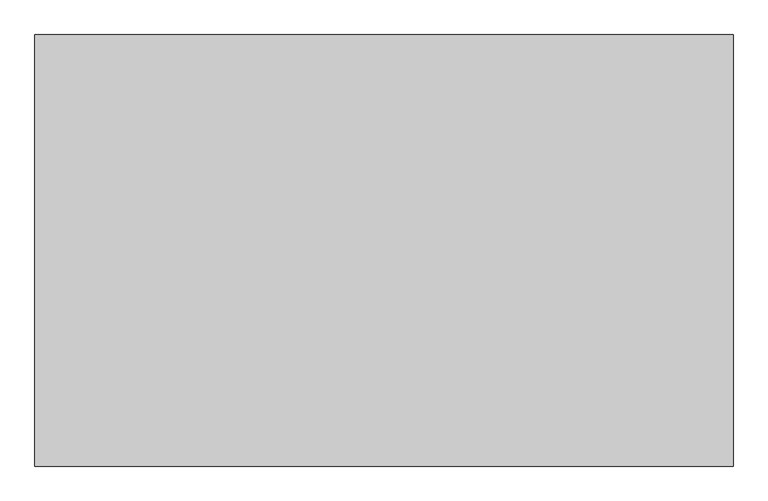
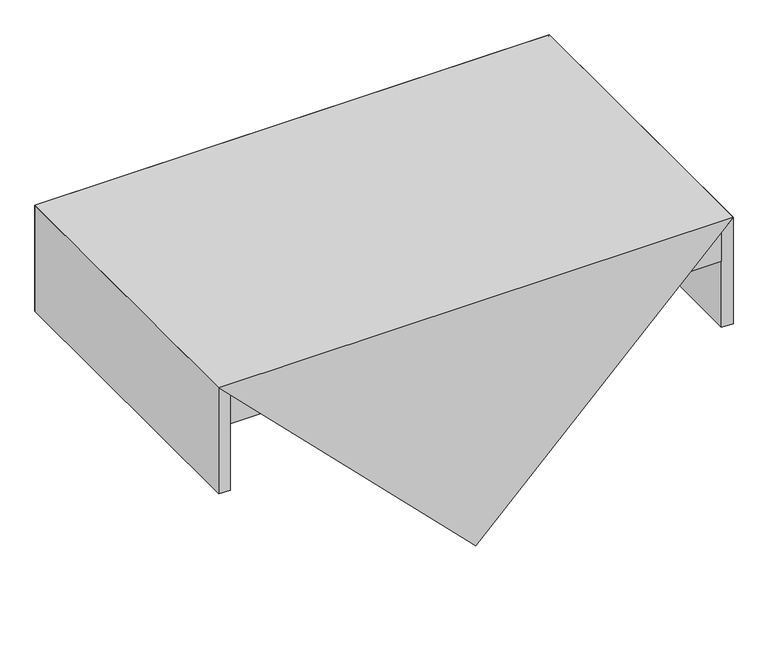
"""IFC4 building model written with IfcOpenShell, lengths in millimetres: proxy geometry, SALUTE^ADMIN_34x55 STRAIGHT TRANS-PARTS SOLID."""

import ifcopenshell
import ifcopenshell.guid

model = None  # the IFC model being written
_history = None  # IfcOwnerHistory: only IFC2X3 demands one
_inside = {}  # id of a spatial element -> (the spatial element, [elements in it])
_under = {}  # id of a project, library or spatial element -> (it, [spatial elements below it])
_declared = {}  # id of a project -> (the project, [libraries it declares])
_typed = {}  # id of a type object -> (the type object, [elements of that type])
_made_of = {}  # id of a material, layer set ... -> (it, [elements and type objects made of it])


def new_model(schema):
    """Start an empty IFC model of exactly this schema.

    Asked for "IFC4X3", IfcOpenShell would pick the latest addendum, in which some entities
    have other attributes; the version numbers below select the first issue.
    IFC2X3 requires an IfcOwnerHistory on every rooted entity: one is made here for all.
    """
    global model, _history
    if schema == "IFC4X3":
        model = ifcopenshell.file(schema_version=(4, 3, 0, 0))
    else:
        model = ifcopenshell.file(schema=schema)
    _inside.clear()
    _under.clear()
    _declared.clear()
    _typed.clear()
    _made_of.clear()
    _history = None
    if model.schema == "IFC2X3":
        org = make("IfcOrganization", Name="unknown")
        user = make(
            "IfcPersonAndOrganization",
            ThePerson=make("IfcPerson", FamilyName="unknown"),
            TheOrganization=org,
        )
        app = make(
            "IfcApplication",
            ApplicationDeveloper=org,
            Version="unknown",
            ApplicationFullName="unknown",
            ApplicationIdentifier="unknown",
        )
        _history = make(
            "IfcOwnerHistory",
            OwningUser=user,
            OwningApplication=app,
            ChangeAction="ADDED",
            CreationDate=0,
        )
    return model


def make(cls, **values):
    """One entity of the class cls with the attributes given. An attribute that is None is left unset."""
    return model.create_entity(
        cls, **{name: value for name, value in values.items() if value is not None}
    )


def rooted(cls, **values):
    """An entity with a GlobalId (a new one), such as an element, a storey or a relation."""
    return make(cls, GlobalId=ifcopenshell.guid.new(), OwnerHistory=_history, **values)


def si_unit(unit_type, name, prefix=None):
    """IfcSIUnit, for example si_unit("LENGTHUNIT", "METRE", prefix="MILLI")."""
    return make("IfcSIUnit", UnitType=unit_type, Prefix=prefix, Name=name)


def assignment(units):
    """IfcUnitAssignment: the units of a project."""
    return None if units is None else make("IfcUnitAssignment", Units=units)


def point(xyz):
    """IfcCartesianPoint."""
    return None if xyz is None else make("IfcCartesianPoint", Coordinates=xyz)


def direction(xyz):
    """IfcDirection."""
    return None if xyz is None else make("IfcDirection", DirectionRatios=xyz)


def frame(location, z_axis=None, x_axis=None):
    """IfcAxis2Placement3D, a coordinate frame: its origin and axes. An axis left out is left unset."""
    return make(
        "IfcAxis2Placement3D",
        Location=point(location),
        Axis=direction(z_axis),
        RefDirection=direction(x_axis),
    )


def origin():
    """The frame at (0, 0, 0) with its axes left unset."""
    return frame((0.0, 0.0, 0.0))


def place(relative_to, where):
    """IfcLocalPlacement: puts the frame where relative to a parent placement (None: the world)."""
    return make(
        "IfcLocalPlacement", PlacementRelTo=relative_to, RelativePlacement=where
    )


def context(
    kind, dimensions, precision=None, world=None, true_north=None, identifier=None
):
    """IfcGeometricRepresentationContext, for example the 3D "Model" context."""
    return make(
        "IfcGeometricRepresentationContext",
        ContextIdentifier=identifier,
        ContextType=kind,
        CoordinateSpaceDimension=dimensions,
        Precision=precision,
        WorldCoordinateSystem=world,
        TrueNorth=true_north,
    )


def project(units=None, contexts=None):
    """IfcProject with its units and contexts."""
    return rooted(
        "IfcProject",
        Name="project",
        RepresentationContexts=contexts,
        UnitsInContext=assignment(units),
    )


def spatial(cls, under=None, at=None, **own):
    """A site, building, storey or space (cls), placed at a placement, below another one or the project."""
    s = rooted(cls, ObjectPlacement=at, **own)
    if under is not None:
        _under.setdefault(under.id(), (under, []))[1].append(s)
    return s


def polyline(points):
    """IfcPolyline through the points."""
    return make("IfcPolyline", Points=[point(p) for p in points])


def outline(outer, holes=None, kind="AREA"):
    """IfcArbitraryClosedProfileDef: a profile drawn as a closed curve; with holes, ...WithVoids."""
    if holes is None:
        return make("IfcArbitraryClosedProfileDef", ProfileType=kind, OuterCurve=outer)
    return make(
        "IfcArbitraryProfileDefWithVoids",
        ProfileType=kind,
        OuterCurve=outer,
        InnerCurves=holes,
    )


def extrude(swept, where, along, depth):
    """IfcExtrudedAreaSolid: the profile swept, set in the frame where, extruded along a direction by depth."""
    return make(
        "IfcExtrudedAreaSolid",
        SweptArea=swept,
        Position=where,
        ExtrudedDirection=direction(along),
        Depth=depth,
    )


def faces_of(points, faces, orient=None, outer=None):
    """IfcFace entities. A face is a list of loops; a loop is a list of indices into points, from 0.

    orient and outer hold one flag for each loop. By default every Orientation is true, the
    first loop of a face is its IfcFaceOuterBound and the others are IfcFaceBound.
    """
    made = []
    for i, loops in enumerate(faces):
        bounds = []
        for j, loop in enumerate(loops):
            is_outer = j == 0 if outer is None else outer[i][j]
            bounds.append(
                make(
                    "IfcFaceOuterBound" if is_outer else "IfcFaceBound",
                    Bound=make("IfcPolyLoop", Polygon=[points[k] for k in loop]),
                    Orientation=True if orient is None else orient[i][j],
                )
            )
        made.append(make("IfcFace", Bounds=bounds))
    return made


def faceted_brep(points, faces, orient=None, outer=None, voids=None):
    """IfcFacetedBrep: a solid bounded by flat faces; with voids (closed shells), ...WithVoids."""
    shared = [point(p) for p in points]
    hull = make("IfcClosedShell", CfsFaces=faces_of(shared, faces, orient, outer))
    if voids is None:
        return make("IfcFacetedBrep", Outer=hull)
    return make(
        "IfcFacetedBrepWithVoids",
        Outer=hull,
        Voids=[
            make(cls, CfsFaces=faces_of(shared, fs, o, b)) for cls, fs, o, b in voids
        ],
    )


def shape(context_of_items, identifier, shape_type, items):
    """IfcShapeRepresentation: the items that make up one representation, for example the "Body"."""
    return make(
        "IfcShapeRepresentation",
        ContextOfItems=context_of_items,
        RepresentationIdentifier=identifier,
        RepresentationType=shape_type,
        Items=items,
    )


def source(mapping_origin, context_of_items, identifier, shape_type, items):
    """IfcRepresentationMap: a shape defined once, which mapped items show again and again."""
    return make(
        "IfcRepresentationMap",
        MappingOrigin=mapping_origin,
        MappedRepresentation=shape(context_of_items, identifier, shape_type, items),
    )


def transform(
    local_origin,
    x_axis=None,
    y_axis=None,
    z_axis=None,
    scale=None,
    scale2=None,
    scale3=None,
    uniform=True,
):
    """IfcCartesianTransformationOperator3D, or its non-uniform kind. x_axis, y_axis, z_axis: its Axis1, 2, 3."""
    if uniform:
        return make(
            "IfcCartesianTransformationOperator3D",
            Axis1=direction(x_axis),
            Axis2=direction(y_axis),
            LocalOrigin=point(local_origin),
            Scale=scale,
            Axis3=direction(z_axis),
        )
    return make(
        "IfcCartesianTransformationOperator3DnonUniform",
        Axis1=direction(x_axis),
        Axis2=direction(y_axis),
        LocalOrigin=point(local_origin),
        Scale=scale,
        Axis3=direction(z_axis),
        Scale2=scale2,
        Scale3=scale3,
    )


def mapped(mapping_source, mapping_target):
    """IfcMappedItem: shows the shape of a source again, moved by a transform."""
    return make(
        "IfcMappedItem", MappingSource=mapping_source, MappingTarget=mapping_target
    )


def made_of(thing, what):
    """Note that an element or type object is made of a material, layer set ...; save() writes the relation."""
    if what is not None:
        _made_of.setdefault(what.id(), (what, []))[1].append(thing)
    return thing


def element(
    cls,
    number,
    at=None,
    inside=None,
    cuts=None,
    type_object=None,
    material=None,
    context=None,
    identifier="Body",
    shape_type=None,
    held_by="IfcProductDefinitionShape",
    body=None,
    shapes=None,
    **own,
):
    """One element of the class cls, such as IfcWall. Its Tag is "e" and its number.

    at: its placement. inside: the storey or other place that contains it. cuts: it is an
    opening in that element (IfcRelVoidsElement). A single representation is given by context,
    identifier, shape_type and body (its items); several are given by shapes. held_by: the class
    of the entity that holds the representations. save() writes the other relations.
    """
    e = rooted(cls, Tag="e%d" % number, ObjectPlacement=at, **own)
    if body is not None:
        shapes = [shape(context, identifier, shape_type, body)]
    if shapes is not None:
        e.Representation = make(held_by, Representations=shapes)
    if inside is not None:
        _inside.setdefault(inside.id(), (inside, []))[1].append(e)
    if cuts is not None:
        rooted(
            "IfcRelVoidsElement", RelatingBuildingElement=cuts, RelatedOpeningElement=e
        )
    if type_object is not None:
        _typed.setdefault(type_object.id(), (type_object, []))[1].append(e)
    return made_of(e, material)


def aggregate(whole, parts):
    """IfcRelAggregates: a whole, such as a stair, and the parts it consists of."""
    return rooted("IfcRelAggregates", RelatingObject=whole, RelatedObjects=parts)


def save(model, path):
    """Write the relations noted so far, then the file.

    IfcRelAggregates (storeys below a building ...), IfcRelContainedInSpatialStructure (elements
    in a storey), IfcRelDefinesByType, IfcRelAssociatesMaterial and IfcRelDeclares: one each for
    every whole, place, type object, material and project.
    """
    for whole, parts in _under.values():
        aggregate(whole, parts)
    for where, things in _inside.values():
        rooted(
            "IfcRelContainedInSpatialStructure",
            RelatedElements=things,
            RelatingStructure=where,
        )
    for kind, things in _typed.values():
        rooted("IfcRelDefinesByType", RelatedObjects=things, RelatingType=kind)
    for what, things in _made_of.values():
        rooted("IfcRelAssociatesMaterial", RelatedObjects=things, RelatingMaterial=what)
    for by, libraries in _declared.values():
        rooted("IfcRelDeclares", RelatingContext=by, RelatedDefinitions=libraries)
    model.write(path)


def generic_models_30864bc3(model_context):
    return source(origin(), model_context, "Body", "SolidModel", [
        extrude(outline(polyline([(-1.5875, -328.6125), (-1331.9125, -328.6125), (-1331.9125, -33.3375), (-1.5875, -33.3375), (-1.5875, -328.6125)])), frame((0.0, 0.0, -133.35), z_axis=(0.0, 0.0, 1.0), x_axis=(1.0, 0.0, 0.0)), (0.0, 0.0, 1.0), 19.05),
        faceted_brep([(-666.75, -863.6, -698.5), (31.75, -863.6, 0.0), (-1365.25, -863.6, 0.0), (-666.75, -698.5, -698.5), (31.75, 0.0, 0.0), (-1365.25, 0.0, 0.0)], [[[0, 1, 2]], [[1, 0, 3, 4]], [[5, 2, 1, 4]], [[4, 3, 5]], [[0, 2, 5, 3]]]),
        faceted_brep([(-1365.25, -863.6, -304.8), (-1333.5, -863.6, -304.8), (-1333.5, -863.6, -31.75), (-1365.25, -863.6, 0.0), (-1365.25, 0.0, 0.0), (-1333.5, -31.75, -31.75), (-1333.5, -31.75, -304.8), (-1365.25, 0.0, -304.8)], [[[0, 1, 2, 3]], [[4, 3, 2, 5]], [[5, 6, 7, 4]], [[1, 6, 5, 2]], [[7, 6, 1, 0]], [[0, 3, 4, 7]]]),
        faceted_brep([(31.75, 0.0, -304.8), (0.0, -31.75, -304.8), (-1333.5, -31.75, -304.8), (-1365.25, 0.0, -304.8), (0.0, -31.75, -31.75), (-1333.5, -31.75, -31.75), (31.75, 0.0, 0.0), (-1365.25, 0.0, 0.0)], [[[0, 1, 2, 3]], [[1, 4, 5, 2]], [[4, 6, 7, 5]], [[6, 0, 3, 7]], [[2, 5, 7, 3]], [[4, 1, 0, 6]]]),
        extrude(outline(polyline([(0.0, -844.55), (0.0, -863.6), (-1333.5, -863.6), (-1333.5, -844.55), (0.0, -844.55)])), frame((0.0, 0.0, -114.3), z_axis=(0.0, 0.0, 1.0), x_axis=(1.0, 0.0, 0.0)), (0.0, 0.0, 1.0), 82.55),
        faceted_brep([(0.0, -863.6, -304.8), (31.75, -863.6, -304.8), (31.75, -863.6, 0.0), (0.0, -863.6, -31.75), (31.75, 0.0, -304.8), (31.75, 0.0, 0.0), (0.0, -31.75, -304.8), (0.0, -31.75, -31.75)], [[[0, 1, 2, 3]], [[2, 1, 4, 5]], [[5, 4, 6, 7]], [[7, 3, 2, 5]], [[3, 7, 6, 0]], [[6, 4, 1, 0]]]),
    ])


if __name__ == "__main__":
    model = new_model("IFC4")
    model_context = context("Model", 3, world=origin())
    ifc_project = project(units=[si_unit("LENGTHUNIT", "METRE", prefix="MILLI")], contexts=[model_context])
    site = spatial("IfcSite", under=ifc_project)
    building = spatial("IfcBuilding", under=site)
    placement = place(None, origin())
    generic_models_shape = generic_models_30864bc3(model_context)
    element("IfcBuildingElementProxy", 1, Name="SALUTE^ADMIN_34x55 STRAIGHT TRANS-PARTS SOLID", ObjectType="SALUTE^ADMIN_34x55 STRAIGHT TRANS-PARTS SOLID", at=placement, inside=building, context=model_context, shape_type="MappedRepresentation", body=[
        mapped(generic_models_shape, transform((0.0, 0.0, 0.0), x_axis=(1.0, 0.0, 0.0), y_axis=(0.0, 1.0, 0.0), z_axis=(0.0, 0.0, 1.0))),
    ])
    save(model, "model.ifc")
